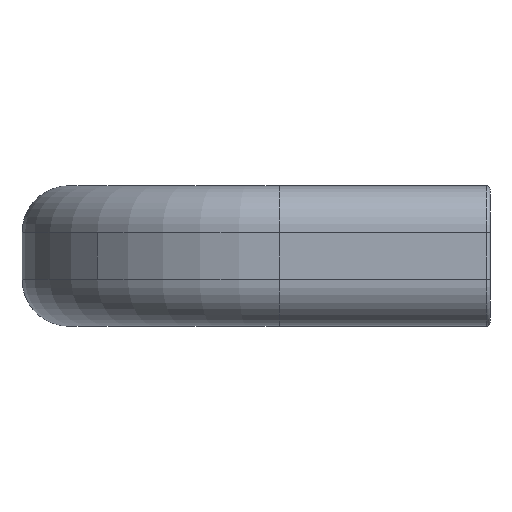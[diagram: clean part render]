
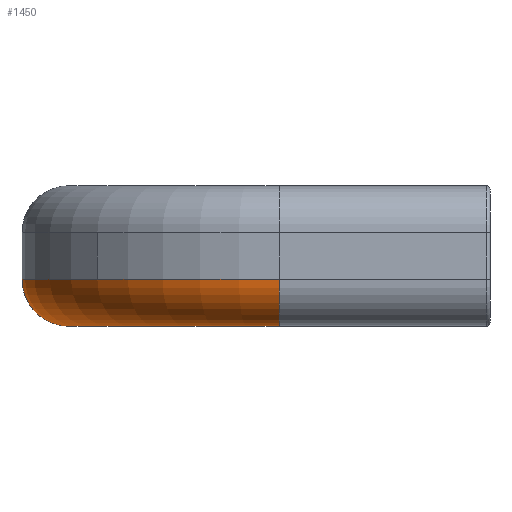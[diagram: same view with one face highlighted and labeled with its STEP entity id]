
A CAD part, left-side view. The second image highlights one B-rep face of the part: STEP entity #1450.
In plain terms, the highlighted toroidal (fillet/blend) face has major radius 18 mm and minor radius 4 mm.
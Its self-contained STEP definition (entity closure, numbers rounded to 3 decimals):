
#448=CARTESIAN_POINT('',(-60.,18.0,-6.));
#449=VERTEX_POINT('',#448);
#465=CARTESIAN_POINT('',(-64.0,18.0,-2.));
#466=VERTEX_POINT('',#465);
#473=CARTESIAN_POINT('',(-60.,18.0,-2.));
#474=DIRECTION('',(0.0,1.0,0.0));
#475=DIRECTION('',(0.0,0.0,-1.0));
#476=AXIS2_PLACEMENT_3D('',#473,#474,#475);
#477=CIRCLE('',#476,4.);
#478=EDGE_CURVE('',#449,#466,#477,.T.);
#490=CARTESIAN_POINT('',(-51.899,27.899,-2.));
#491=VERTEX_POINT('',#490);
#505=CARTESIAN_POINT('',(-56.,18.0,-2.));
#506=VERTEX_POINT('',#505);
#513=CARTESIAN_POINT('',(-42.,18.0,-2.));
#514=DIRECTION('',(0.0,0.0,-1.0));
#515=DIRECTION('',(-1.0,0.0,0.0));
#516=AXIS2_PLACEMENT_3D('',#513,#514,#515);
#517=CIRCLE('',#516,14.);
#518=EDGE_CURVE('',#506,#491,#517,.T.);
#592=CARTESIAN_POINT('',(-57.556,33.556,-2.));
#593=VERTEX_POINT('',#592);
#602=CARTESIAN_POINT('',(-42.,18.0,-2.));
#603=DIRECTION('',(0.0,0.0,-1.0));
#604=DIRECTION('',(-1.0,0.0,0.0));
#605=AXIS2_PLACEMENT_3D('',#602,#603,#604);
#606=CIRCLE('',#605,22.);
#607=EDGE_CURVE('',#466,#593,#606,.T.);
#676=CARTESIAN_POINT('',(-42.,36.,-6.));
#677=VERTEX_POINT('',#676);
#693=CARTESIAN_POINT('',(-42.,32.0,-2.));
#694=VERTEX_POINT('',#693);
#701=CARTESIAN_POINT('',(-42.,36.,-2.));
#702=DIRECTION('',(1.0,0.0,0.0));
#703=DIRECTION('',(0.0,0.0,-1.0));
#704=AXIS2_PLACEMENT_3D('',#701,#702,#703);
#705=CIRCLE('',#704,4.);
#706=EDGE_CURVE('',#694,#677,#705,.T.);
#1200=CARTESIAN_POINT('',(-42.,40.,-2.));
#1201=VERTEX_POINT('',#1200);
#1283=CARTESIAN_POINT('',(-42.,36.,-2.));
#1284=DIRECTION('',(1.0,0.0,0.0));
#1285=DIRECTION('',(0.0,0.0,-1.0));
#1286=AXIS2_PLACEMENT_3D('',#1283,#1284,#1285);
#1287=CIRCLE('',#1286,4.);
#1288=EDGE_CURVE('',#677,#1201,#1287,.T.);
#1396=CARTESIAN_POINT('',(-42.,18.0,-2.));
#1397=DIRECTION('',(0.0,0.0,-1.0));
#1398=DIRECTION('',(-1.0,0.0,0.0));
#1399=AXIS2_PLACEMENT_3D('',#1396,#1397,#1398);
#1400=CIRCLE('',#1399,22.);
#1401=EDGE_CURVE('',#593,#1201,#1400,.T.);
#1423=CARTESIAN_POINT('',(-42.,18.,-2.));
#1424=DIRECTION('',(0.0,0.0,-1.0));
#1425=DIRECTION('',(-1.0,0.0,0.0));
#1426=AXIS2_PLACEMENT_3D('',#1423,#1424,#1425);
#1427=TOROIDAL_SURFACE('',#1426,18.,4.);
#1428=CARTESIAN_POINT('',(-60.,18.0,-2.));
#1429=DIRECTION('',(0.0,1.0,0.0));
#1430=DIRECTION('',(0.0,0.0,-1.0));
#1431=AXIS2_PLACEMENT_3D('',#1428,#1429,#1430);
#1432=CIRCLE('',#1431,4.);
#1433=EDGE_CURVE('',#506,#449,#1432,.T.);
#1434=ORIENTED_EDGE('',*,*,#1433,.T.);
#1435=ORIENTED_EDGE('',*,*,#478,.T.);
#1436=ORIENTED_EDGE('',*,*,#607,.T.);
#1437=ORIENTED_EDGE('',*,*,#1401,.T.);
#1438=ORIENTED_EDGE('',*,*,#1288,.F.);
#1439=ORIENTED_EDGE('',*,*,#706,.F.);
#1440=CARTESIAN_POINT('',(-42.,18.0,-2.));
#1441=DIRECTION('',(0.0,0.0,-1.0));
#1442=DIRECTION('',(-1.0,0.0,0.0));
#1443=AXIS2_PLACEMENT_3D('',#1440,#1441,#1442);
#1444=CIRCLE('',#1443,14.);
#1445=EDGE_CURVE('',#491,#694,#1444,.T.);
#1446=ORIENTED_EDGE('',*,*,#1445,.F.);
#1447=ORIENTED_EDGE('',*,*,#518,.F.);
#1448=EDGE_LOOP('',(#1434,#1435,#1436,#1437,#1438,#1439,#1446,#1447));
#1449=FACE_OUTER_BOUND('',#1448,.T.);
#1450=ADVANCED_FACE('',(#1449),#1427,.T.);
